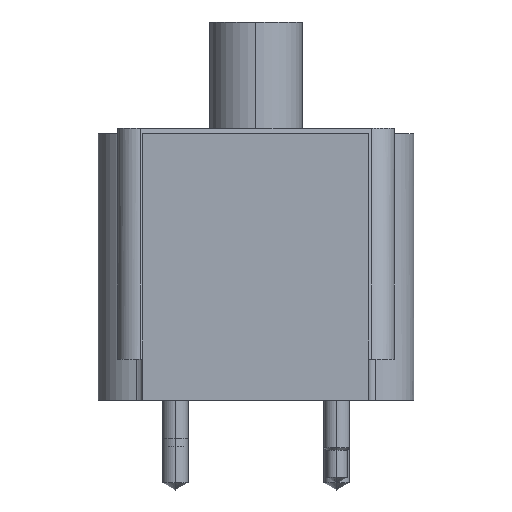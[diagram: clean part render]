
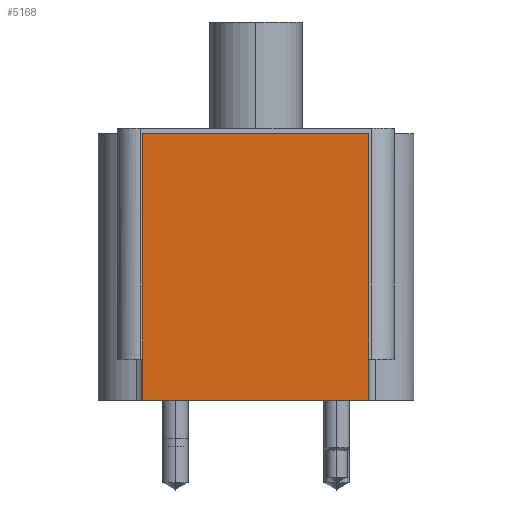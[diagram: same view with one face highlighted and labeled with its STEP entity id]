
A CAD part, left-side view. The second image highlights one B-rep face of the part: STEP entity #5168.
In plain terms, the highlighted planar face has unit normal (-1, 0, 0).
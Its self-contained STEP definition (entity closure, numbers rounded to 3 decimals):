
#4800=CARTESIAN_POINT('',(-84.201,34.988,82.55));
#4801=VERTEX_POINT('',#4800);
#4808=CARTESIAN_POINT('',(-84.201,-34.988,82.55));
#4809=VERTEX_POINT('',#4808);
#4810=CARTESIAN_POINT('',(-84.201,0.0,82.55));
#4811=DIRECTION('',(0.0,1.0,0.0));
#4812=VECTOR('',#4811,1.0);
#4813=LINE('',#4810,#4812);
#4814=EDGE_CURVE('',#4809,#4801,#4813,.T.);
#5138=CARTESIAN_POINT('',(-84.201,34.988,0.0));
#5139=VERTEX_POINT('',#5138);
#5140=CARTESIAN_POINT('',(-84.201,34.988,0.0));
#5141=DIRECTION('',(0.0,0.0,1.0));
#5142=VECTOR('',#5141,1.0);
#5143=LINE('',#5140,#5142);
#5144=EDGE_CURVE('',#5139,#4801,#5143,.T.);
#5145=ORIENTED_EDGE('',*,*,#5144,.F.);
#5146=CARTESIAN_POINT('',(-84.201,-34.988,0.0));
#5147=VERTEX_POINT('',#5146);
#5148=CARTESIAN_POINT('',(-84.201,0.0,0.0));
#5149=DIRECTION('',(0.0,-1.0,0.0));
#5150=VECTOR('',#5149,1.0);
#5151=LINE('',#5148,#5150);
#5152=EDGE_CURVE('',#5139,#5147,#5151,.T.);
#5153=ORIENTED_EDGE('',*,*,#5152,.T.);
#5154=CARTESIAN_POINT('',(-84.201,-34.988,0.0));
#5155=DIRECTION('',(0.0,0.0,-1.0));
#5156=VECTOR('',#5155,1.0);
#5157=LINE('',#5154,#5156);
#5158=EDGE_CURVE('',#4809,#5147,#5157,.T.);
#5159=ORIENTED_EDGE('',*,*,#5158,.F.);
#5160=ORIENTED_EDGE('',*,*,#4814,.T.);
#5161=EDGE_LOOP('',(#5145,#5153,#5159,#5160));
#5162=FACE_OUTER_BOUND('',#5161,.T.);
#5163=CARTESIAN_POINT('',(-84.201,0.0,0.0));
#5164=DIRECTION('',(-1.0,0.0,-0.0));
#5165=DIRECTION('',(-0.0,0.0,1.0));
#5166=AXIS2_PLACEMENT_3D('',#5163,#5164,#5165);
#5167=PLANE('',#5166);
#5168=ADVANCED_FACE('',(#5162),#5167,.T.);
